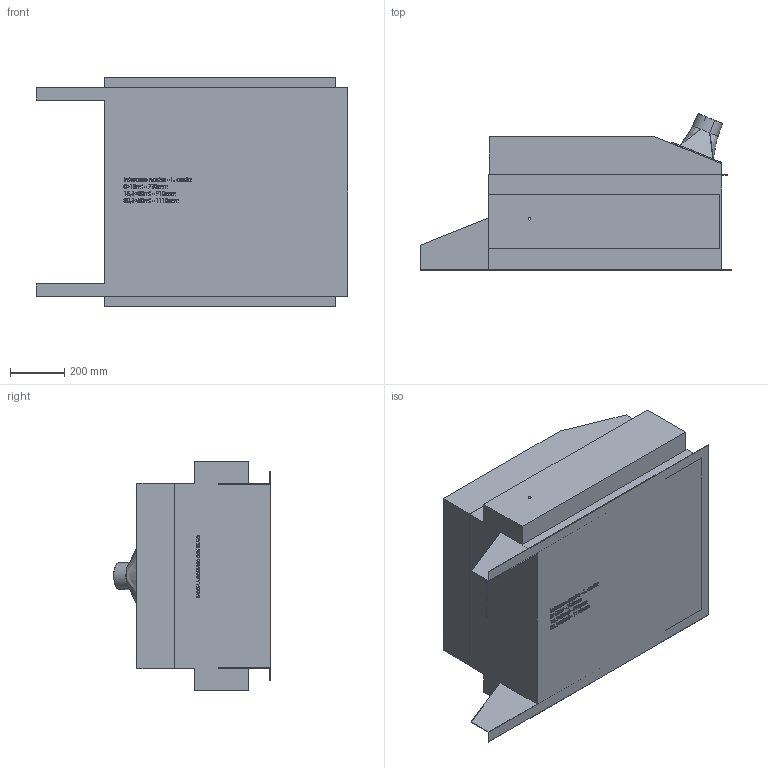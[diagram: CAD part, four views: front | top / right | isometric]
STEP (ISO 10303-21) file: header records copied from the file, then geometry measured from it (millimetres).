
FILE_DESCRIPTION (( 'STEP AP203' ), '1' );
FILE_NAME ('30765.step', '2019-03-14T14:32:47', ( 'PC' ), ( 'Hewlett-Packard Company' ), 'SwSTEP 2.0', 'SolidWorks 2016', '' );
FILE_SCHEMA (( 'CONFIG_CONTROL_DESIGN' ));
Products named in the file (1): 30765
Bounding box: 1150 x 579.38 x 850 mm (x, y, z)
Volume: 311366524.7 mm3; surface area: 4889122 mm2
Topology: 3 solids, 3 shells, 1165 faces, 3095 edges, 2057 vertices
Faces by surface type: plane 700, bspline 443, cylinder 20, cone 2
Entity records: 64426 total; most frequent: CARTESIAN_POINT 38359, ORIENTED_EDGE 6186, DIRECTION 3689, EDGE_CURVE 3093, VECTOR 2163, LINE 2163, VERTEX_POINT 2057, EDGE_LOOP 1304
